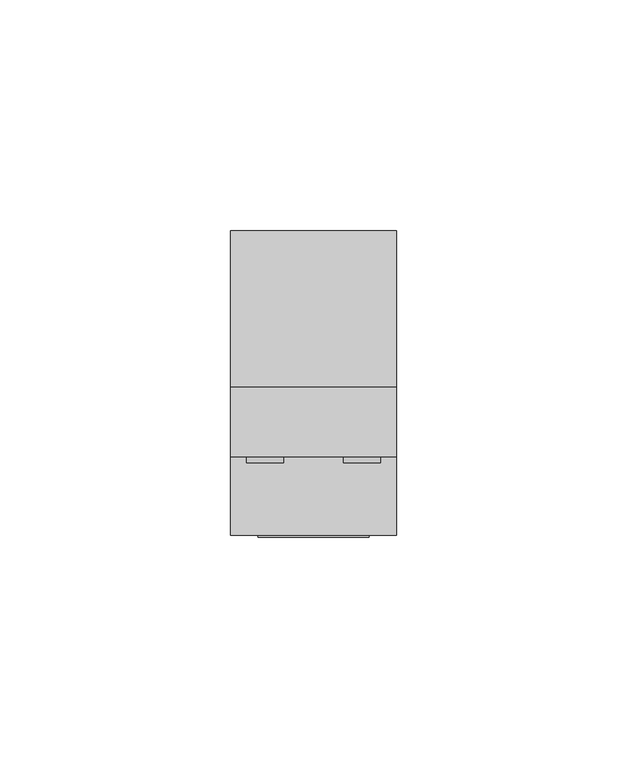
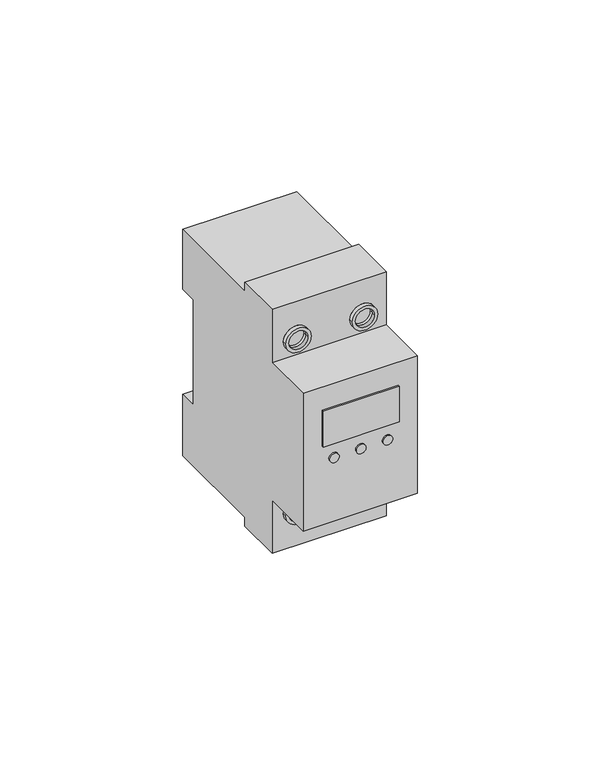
"""IFC4 building model written with IfcOpenShell, lengths in millimetres: proxy geometry, TDM_РЕЛЕ КОНТРОЛЯ НАПРЯЖЕНИЯ СЕРИИ АЗМ LED : 63А."""

import ifcopenshell
import ifcopenshell.guid

model = None  # the IFC model being written
_history = None  # IfcOwnerHistory: only IFC2X3 demands one
_inside = {}  # id of a spatial element -> (the spatial element, [elements in it])
_under = {}  # id of a project, library or spatial element -> (it, [spatial elements below it])
_declared = {}  # id of a project -> (the project, [libraries it declares])
_typed = {}  # id of a type object -> (the type object, [elements of that type])
_made_of = {}  # id of a material, layer set ... -> (it, [elements and type objects made of it])


def new_model(schema):
    """Start an empty IFC model of exactly this schema.

    Asked for "IFC4X3", IfcOpenShell would pick the latest addendum, in which some entities
    have other attributes; the version numbers below select the first issue.
    IFC2X3 requires an IfcOwnerHistory on every rooted entity: one is made here for all.
    """
    global model, _history
    if schema == "IFC4X3":
        model = ifcopenshell.file(schema_version=(4, 3, 0, 0))
    else:
        model = ifcopenshell.file(schema=schema)
    _inside.clear()
    _under.clear()
    _declared.clear()
    _typed.clear()
    _made_of.clear()
    _history = None
    if model.schema == "IFC2X3":
        org = make("IfcOrganization", Name="unknown")
        user = make(
            "IfcPersonAndOrganization",
            ThePerson=make("IfcPerson", FamilyName="unknown"),
            TheOrganization=org,
        )
        app = make(
            "IfcApplication",
            ApplicationDeveloper=org,
            Version="unknown",
            ApplicationFullName="unknown",
            ApplicationIdentifier="unknown",
        )
        _history = make(
            "IfcOwnerHistory",
            OwningUser=user,
            OwningApplication=app,
            ChangeAction="ADDED",
            CreationDate=0,
        )
    return model


def make(cls, **values):
    """One entity of the class cls with the attributes given. An attribute that is None is left unset."""
    return model.create_entity(
        cls, **{name: value for name, value in values.items() if value is not None}
    )


def rooted(cls, **values):
    """An entity with a GlobalId (a new one), such as an element, a storey or a relation."""
    return make(cls, GlobalId=ifcopenshell.guid.new(), OwnerHistory=_history, **values)


def si_unit(unit_type, name, prefix=None):
    """IfcSIUnit, for example si_unit("LENGTHUNIT", "METRE", prefix="MILLI")."""
    return make("IfcSIUnit", UnitType=unit_type, Prefix=prefix, Name=name)


def assignment(units):
    """IfcUnitAssignment: the units of a project."""
    return None if units is None else make("IfcUnitAssignment", Units=units)


def point(xyz):
    """IfcCartesianPoint."""
    return None if xyz is None else make("IfcCartesianPoint", Coordinates=xyz)


def direction(xyz):
    """IfcDirection."""
    return None if xyz is None else make("IfcDirection", DirectionRatios=xyz)


def frame(location, z_axis=None, x_axis=None):
    """IfcAxis2Placement3D, a coordinate frame: its origin and axes. An axis left out is left unset."""
    return make(
        "IfcAxis2Placement3D",
        Location=point(location),
        Axis=direction(z_axis),
        RefDirection=direction(x_axis),
    )


def frame_2d(location, x_axis=None):
    """IfcAxis2Placement2D, a coordinate frame in the plane: its origin and x axis."""
    return make(
        "IfcAxis2Placement2D", Location=point(location), RefDirection=direction(x_axis)
    )


def origin():
    """The frame at (0, 0, 0) with its axes left unset."""
    return frame((0.0, 0.0, 0.0))


def place(relative_to, where):
    """IfcLocalPlacement: puts the frame where relative to a parent placement (None: the world)."""
    return make(
        "IfcLocalPlacement", PlacementRelTo=relative_to, RelativePlacement=where
    )


def context(
    kind, dimensions, precision=None, world=None, true_north=None, identifier=None
):
    """IfcGeometricRepresentationContext, for example the 3D "Model" context."""
    return make(
        "IfcGeometricRepresentationContext",
        ContextIdentifier=identifier,
        ContextType=kind,
        CoordinateSpaceDimension=dimensions,
        Precision=precision,
        WorldCoordinateSystem=world,
        TrueNorth=true_north,
    )


def project(units=None, contexts=None):
    """IfcProject with its units and contexts."""
    return rooted(
        "IfcProject",
        Name="project",
        RepresentationContexts=contexts,
        UnitsInContext=assignment(units),
    )


def spatial(cls, under=None, at=None, **own):
    """A site, building, storey or space (cls), placed at a placement, below another one or the project."""
    s = rooted(cls, ObjectPlacement=at, **own)
    if under is not None:
        _under.setdefault(under.id(), (under, []))[1].append(s)
    return s


def polyline(points):
    """IfcPolyline through the points."""
    return make("IfcPolyline", Points=[point(p) for p in points])


def circle_curve(where, radius):
    """IfcCircle in the frame where."""
    return make("IfcCircle", Position=where, Radius=radius)


def trimmed(basis, trim1, trim2, sense, master):
    """IfcTrimmedCurve: the piece of a basis curve between two trims."""
    return make(
        "IfcTrimmedCurve",
        BasisCurve=basis,
        Trim1=trim1,
        Trim2=trim2,
        SenseAgreement=sense,
        MasterRepresentation=master,
    )


def segment(curve, same_sense, transition):
    """IfcCompositeCurveSegment."""
    return make(
        "IfcCompositeCurveSegment",
        Transition=transition,
        SameSense=same_sense,
        ParentCurve=curve,
    )


def composite_curve(segments, self_intersect=None):
    """IfcCompositeCurve: segments joined end to end."""
    return make("IfcCompositeCurve", Segments=segments, SelfIntersect=self_intersect)


def outline(outer, holes=None, kind="AREA"):
    """IfcArbitraryClosedProfileDef: a profile drawn as a closed curve; with holes, ...WithVoids."""
    if holes is None:
        return make("IfcArbitraryClosedProfileDef", ProfileType=kind, OuterCurve=outer)
    return make(
        "IfcArbitraryProfileDefWithVoids",
        ProfileType=kind,
        OuterCurve=outer,
        InnerCurves=holes,
    )


def extrude(swept, where, along, depth):
    """IfcExtrudedAreaSolid: the profile swept, set in the frame where, extruded along a direction by depth."""
    return make(
        "IfcExtrudedAreaSolid",
        SweptArea=swept,
        Position=where,
        ExtrudedDirection=direction(along),
        Depth=depth,
    )


def shape(context_of_items, identifier, shape_type, items):
    """IfcShapeRepresentation: the items that make up one representation, for example the "Body"."""
    return make(
        "IfcShapeRepresentation",
        ContextOfItems=context_of_items,
        RepresentationIdentifier=identifier,
        RepresentationType=shape_type,
        Items=items,
    )


def source(mapping_origin, context_of_items, identifier, shape_type, items):
    """IfcRepresentationMap: a shape defined once, which mapped items show again and again."""
    return make(
        "IfcRepresentationMap",
        MappingOrigin=mapping_origin,
        MappedRepresentation=shape(context_of_items, identifier, shape_type, items),
    )


def transform(
    local_origin,
    x_axis=None,
    y_axis=None,
    z_axis=None,
    scale=None,
    scale2=None,
    scale3=None,
    uniform=True,
):
    """IfcCartesianTransformationOperator3D, or its non-uniform kind. x_axis, y_axis, z_axis: its Axis1, 2, 3."""
    if uniform:
        return make(
            "IfcCartesianTransformationOperator3D",
            Axis1=direction(x_axis),
            Axis2=direction(y_axis),
            LocalOrigin=point(local_origin),
            Scale=scale,
            Axis3=direction(z_axis),
        )
    return make(
        "IfcCartesianTransformationOperator3DnonUniform",
        Axis1=direction(x_axis),
        Axis2=direction(y_axis),
        LocalOrigin=point(local_origin),
        Scale=scale,
        Axis3=direction(z_axis),
        Scale2=scale2,
        Scale3=scale3,
    )


def mapped(mapping_source, mapping_target):
    """IfcMappedItem: shows the shape of a source again, moved by a transform."""
    return make(
        "IfcMappedItem", MappingSource=mapping_source, MappingTarget=mapping_target
    )


def made_of(thing, what):
    """Note that an element or type object is made of a material, layer set ...; save() writes the relation."""
    if what is not None:
        _made_of.setdefault(what.id(), (what, []))[1].append(thing)
    return thing


def element(
    cls,
    number,
    at=None,
    inside=None,
    cuts=None,
    type_object=None,
    material=None,
    context=None,
    identifier="Body",
    shape_type=None,
    held_by="IfcProductDefinitionShape",
    body=None,
    shapes=None,
    **own,
):
    """One element of the class cls, such as IfcWall. Its Tag is "e" and its number.

    at: its placement. inside: the storey or other place that contains it. cuts: it is an
    opening in that element (IfcRelVoidsElement). A single representation is given by context,
    identifier, shape_type and body (its items); several are given by shapes. held_by: the class
    of the entity that holds the representations. save() writes the other relations.
    """
    e = rooted(cls, Tag="e%d" % number, ObjectPlacement=at, **own)
    if body is not None:
        shapes = [shape(context, identifier, shape_type, body)]
    if shapes is not None:
        e.Representation = make(held_by, Representations=shapes)
    if inside is not None:
        _inside.setdefault(inside.id(), (inside, []))[1].append(e)
    if cuts is not None:
        rooted(
            "IfcRelVoidsElement", RelatingBuildingElement=cuts, RelatedOpeningElement=e
        )
    if type_object is not None:
        _typed.setdefault(type_object.id(), (type_object, []))[1].append(e)
    return made_of(e, material)


def aggregate(whole, parts):
    """IfcRelAggregates: a whole, such as a stair, and the parts it consists of."""
    return rooted("IfcRelAggregates", RelatingObject=whole, RelatedObjects=parts)


def save(model, path):
    """Write the relations noted so far, then the file.

    IfcRelAggregates (storeys below a building ...), IfcRelContainedInSpatialStructure (elements
    in a storey), IfcRelDefinesByType, IfcRelAssociatesMaterial and IfcRelDeclares: one each for
    every whole, place, type object, material and project.
    """
    for whole, parts in _under.values():
        aggregate(whole, parts)
    for where, things in _inside.values():
        rooted(
            "IfcRelContainedInSpatialStructure",
            RelatedElements=things,
            RelatingStructure=where,
        )
    for kind, things in _typed.values():
        rooted("IfcRelDefinesByType", RelatedObjects=things, RelatingType=kind)
    for what, things in _made_of.values():
        rooted("IfcRelAssociatesMaterial", RelatedObjects=things, RelatingMaterial=what)
    for by, libraries in _declared.values():
        rooted("IfcRelDeclares", RelatingContext=by, RelatedDefinitions=libraries)
    model.write(path)


def plane_surface(at):
    """IfcPlane: the flat surface through the origin of the frame at, square to its z axis."""
    return make("IfcPlane", Position=at)


def cylinder_surface(at, radius):
    """IfcCylindricalSurface: all points at the distance radius from the z axis of the frame at."""
    return make("IfcCylindricalSurface", Position=at, Radius=radius)


def revolved_surface(curve, axis_point, axis_direction):
    """IfcSurfaceOfRevolution: the curve turned about the line through axis_point along axis_direction."""
    return make(
        "IfcSurfaceOfRevolution",
        SweptCurve=make("IfcArbitraryOpenProfileDef", ProfileType="CURVE", Curve=curve),
        AxisPosition=make("IfcAxis1Placement", Location=point(axis_point), Axis=direction(axis_direction)),
    )


def advanced_brep(points, edges, surfaces, faces):
    """IfcAdvancedBrep: a solid bounded by faces that lie on surfaces and meet in shared edges.

    An edge is (start, end): straight between two places in points (the first is 0);
    or (start, end, curve); or (start, end, curve, False) where it runs against its curve.
    A face is (place in surfaces, loops), or (place, loops, False) where it looks against
    its surface's normal. A loop lists edges by number (the first is 1), with a minus sign
    where the edge is run from its end to its start. The first loop is the outer one.
    """
    corners = [point(p) for p in points]
    vertices = [make("IfcVertexPoint", VertexGeometry=c) for c in corners]
    made = []
    for start, end, *more in edges:
        made.append(
            make(
                "IfcEdgeCurve",
                EdgeStart=vertices[start],
                EdgeEnd=vertices[end],
                EdgeGeometry=more[0] if more else make("IfcPolyline", Points=[corners[start], corners[end]]),
                SameSense=more[1] if len(more) > 1 else True,
            )
        )
    hull = []
    for where, loops, *sense in faces:
        bounds = []
        for j, loop in enumerate(loops):
            ring = [make("IfcOrientedEdge", EdgeElement=made[abs(k) - 1], Orientation=k > 0) for k in loop]
            bounds.append(
                make(
                    "IfcFaceOuterBound" if j == 0 else "IfcFaceBound",
                    Bound=make("IfcEdgeLoop", EdgeList=ring),
                    Orientation=True,
                )
            )
        hull.append(make("IfcAdvancedFace", Bounds=bounds, FaceSurface=surfaces[where], SameSense=sense[0] if sense else True))
    return make("IfcAdvancedBrep", Outer=make("IfcClosedShell", CfsFaces=hull))


def electrical_equipment_b765c095(model_context):
    return source(origin(), model_context, "Body", "SolidModel", [
        extrude(outline(composite_curve([segment(trimmed(circle_curve(frame_2d((-1.58976, 0.0)), 1.5), [point((-1.58976, -1.5))], [point((-1.58976, 1.5))], False, "CARTESIAN"), True, "CONTINUOUS"), segment(trimmed(circle_curve(frame_2d((-1.58976, 0.0)), 1.5), [point((-1.58976, 1.5))], [point((-1.58976, -1.5))], False, "CARTESIAN"), True, "CONTINUOUS")], self_intersect=False)), frame((0.0, -28.9880596, 0.0), z_axis=(0.0, 1.0, 0.0), x_axis=(0.0, 0.0, 1.0)), (0.0, 0.0, 1.0), 0.4880596),
        extrude(outline(composite_curve([segment(trimmed(circle_curve(frame_2d((-1.58976, 8.4375)), 1.5), [point((-1.58976, 6.9375))], [point((-1.58976, 9.9375))], False, "CARTESIAN"), True, "CONTINUOUS"), segment(trimmed(circle_curve(frame_2d((-1.58976, 8.4375)), 1.5), [point((-1.58976, 9.9375))], [point((-1.58976, 6.9375))], False, "CARTESIAN"), True, "CONTINUOUS")], self_intersect=False)), frame((0.0, -28.9880596, 0.0), z_axis=(0.0, 1.0, 0.0), x_axis=(0.0, 0.0, 1.0)), (0.0, 0.0, 1.0), 0.4880596),
        extrude(outline(composite_curve([segment(trimmed(circle_curve(frame_2d((-1.58976, -8.4375)), 1.5), [point((-1.58976, -6.9375))], [point((-1.58976, -9.9375))], False, "CARTESIAN"), True, "CONTINUOUS"), segment(trimmed(circle_curve(frame_2d((-1.58976, -8.4375)), 1.5), [point((-1.58976, -9.9375))], [point((-1.58976, -6.9375))], False, "CARTESIAN"), True, "CONTINUOUS")], self_intersect=False)), frame((0.0, -28.9880596, 0.0), z_axis=(0.0, 1.0, 0.0), x_axis=(0.0, 0.0, 1.0)), (0.0, 0.0, 1.0), 0.4880596),
        extrude(outline(polyline([(12.0, -28.9880596), (-12.0, -28.9880596), (-12.0, -28.5), (12.0, -28.5), (12.0, -28.9880596)])), frame((0.0, 0.0, 3.2742236), z_axis=(0.0, 0.0, 1.0), x_axis=(1.0, 0.0, 0.0)), (0.0, 0.0, 1.0), 12.0),
        extrude(outline(polyline([(17.0, 16.6821204), (17.0, -10.1906439), (-17.0, -10.1906439), (-17.0, 16.6821204), (17.0, 16.6821204)])), frame((0.0, 0.0, -35.0), z_axis=(0.0, 0.0, 1.0), x_axis=(1.0, 0.0, 0.0)), (0.0, 0.0, 1.0), 69.8255916),
        advanced_brep(
        [(18.0, 31.7632568, 17.7057143), (18.0, 37.5, 17.7057143), (18.0, 37.5, 37.75), (18.0, 3.5, 37.75), (18.0, 3.5, 40.75), (18.0, -11.5, 40.75), (18.0, -11.5, 23.0), (18.0, -28.5, 23.0), (18.0, -28.5, -23.0), (18.0, -11.5, -23.0), (18.0, -11.5, -40.75), (18.0, 3.5, -40.75), (18.0, 3.5, -37.75), (18.0, 37.5, -37.75), (18.0, 37.5, -17.2942857), (18.0, 31.7632568, -17.2942857), (-18.0, 31.7632568, 17.7057143), (-18.0, 31.7632568, -17.2942857), (-18.0, 37.5, -17.2942857), (-18.0, 37.5, -37.75), (-18.0, 3.5, -37.75), (-18.0, 3.5, -40.75), (-18.0, -11.5, -40.75), (-18.0, -11.5, -23.0), (-18.0, -28.5, -23.0), (-18.0, -28.5, 23.0), (-18.0, -11.5, 23.0), (-18.0, -11.5, 40.75), (-18.0, 3.5, 40.75), (-18.0, 3.5, 37.75), (-18.0, 37.5, 37.75), (-18.0, 37.5, 17.7057143), (7.5, -8.8717742, 28.6903679), (13.5, -8.8717742, 28.6903679), (-7.5, -8.8717742, 28.6903679), (-13.5, -8.8717742, 28.6903679), (7.5, -8.8717742, -28.6903679), (13.5, -8.8717742, -28.6903679), (-7.5, -8.8717742, -28.6903679), (-13.5, -8.8717742, -28.6903679), (7.5, -11.5, 28.6903679), (13.5, -11.5, 28.6903679), (14.5, -11.5, 28.6903679), (6.5, -11.5, 28.6903679), (-6.5, -11.5, 28.6903679), (-14.5, -11.5, 28.6903679), (14.5, -11.5, -28.6903679), (6.5, -11.5, -28.6903679), (-6.5, -11.5, -28.6903679), (-14.5, -11.5, -28.6903679), (-7.5, -11.5, 28.6903679), (-13.5, -11.5, 28.6903679), (7.5, -11.5, -28.6903679), (13.5, -11.5, -28.6903679), (-7.5, -11.5, -28.6903679), (-13.5, -11.5, -28.6903679), (6.5, -12.8283835, -28.6903679), (14.5, -12.8283835, -28.6903679), (7.5, -12.8283835, -28.6903679), (13.5, -12.8283835, -28.6903679), (-14.5, -12.8283835, -28.6903679), (-6.5, -12.8283835, -28.6903679), (-7.5, -12.8283835, -28.6903679), (-13.5, -12.8283835, -28.6903679), (6.5, -12.8283835, 28.6903679), (14.5, -12.8283835, 28.6903679), (7.5, -12.8283835, 28.6903679), (13.5, -12.8283835, 28.6903679), (-14.5, -12.8283835, 28.6903679), (-6.5, -12.8283835, 28.6903679), (-7.5, -12.8283835, 28.6903679), (-13.5, -12.8283835, 28.6903679)],
        [
            (0, 1),
            (1, 2),
            (2, 3),
            (3, 4),
            (4, 5),
            (5, 6),
            (6, 7),
            (7, 8),
            (8, 9),
            (9, 10),
            (10, 11),
            (11, 12),
            (12, 13),
            (13, 14),
            (14, 15),
            (15, 0),
            (16, 17),
            (17, 18),
            (18, 19),
            (19, 20),
            (20, 21),
            (21, 22),
            (22, 23),
            (23, 24),
            (24, 25),
            (25, 26),
            (26, 27),
            (27, 28),
            (28, 29),
            (29, 30),
            (30, 31),
            (31, 16),
            (0, 16),
            (31, 1),
            (30, 2),
            (13, 19),
            (18, 14),
            (17, 15),
            (32, 33, circle_curve(frame((10.5, -8.8717742, 28.6903679), z_axis=(0.0, -1.0, 0.0), x_axis=(1.0, 0.0, 0.0)), 3.0)),
            (33, 32, circle_curve(frame((10.5, -8.8717742, 28.6903679), z_axis=(0.0, -1.0, 0.0), x_axis=(1.0, 0.0, 0.0)), 3.0)),
            (34, 35, circle_curve(frame((-10.5, -8.8717742, 28.6903679), z_axis=(0.0, -1.0, 0.0), x_axis=(-1.0, 0.0, 0.0)), 3.0)),
            (35, 34, circle_curve(frame((-10.5, -8.8717742, 28.6903679), z_axis=(0.0, -1.0, 0.0), x_axis=(-1.0, 0.0, 0.0)), 3.0)),
            (36, 37, circle_curve(frame((10.5, -8.8717742, -28.6903679), z_axis=(0.0, -1.0, 0.0), x_axis=(1.0, 0.0, 0.0)), 3.0)),
            (37, 36, circle_curve(frame((10.5, -8.8717742, -28.6903679), z_axis=(0.0, -1.0, 0.0), x_axis=(1.0, 0.0, 0.0)), 3.0)),
            (38, 39, circle_curve(frame((-10.5, -8.8717742, -28.6903679), z_axis=(0.0, -1.0, 0.0), x_axis=(-1.0, 0.0, 0.0)), 3.0)),
            (39, 38, circle_curve(frame((-10.5, -8.8717742, -28.6903679), z_axis=(0.0, -1.0, 0.0), x_axis=(-1.0, 0.0, 0.0)), 3.0)),
            (6, 26),
            (25, 7),
            (24, 8),
            (32, 40),
            (40, 41, circle_curve(frame((10.5, -11.5, 28.6903679), z_axis=(0.0, -1.0, 0.0), x_axis=(1.0, 0.0, 0.0)), 3.0)),
            (41, 33),
            (41, 40, circle_curve(frame((10.5, -11.5, 28.6903679), z_axis=(0.0, -1.0, 0.0), x_axis=(1.0, 0.0, 0.0)), 3.0)),
            (4, 28),
            (27, 5),
            (42, 43, circle_curve(frame((10.5, -11.5, 28.6903679), z_axis=(0.0, 1.0, 0.0), x_axis=(1.0, 0.0, 0.0)), 4.0)),
            (43, 42, circle_curve(frame((10.5, -11.5, 28.6903679), z_axis=(0.0, 1.0, 0.0), x_axis=(1.0, 0.0, 0.0)), 4.0)),
            (44, 45, circle_curve(frame((-10.5, -11.5, 28.6903679), z_axis=(0.0, 1.0, 0.0), x_axis=(1.0, 0.0, 0.0)), 4.0)),
            (45, 44, circle_curve(frame((-10.5, -11.5, 28.6903679), z_axis=(0.0, 1.0, 0.0), x_axis=(1.0, 0.0, 0.0)), 4.0)),
            (23, 9),
            (22, 10),
            (46, 47, circle_curve(frame((10.5, -11.5, -28.6903679), z_axis=(0.0, 1.0, 0.0), x_axis=(1.0, 0.0, 0.0)), 4.0)),
            (47, 46, circle_curve(frame((10.5, -11.5, -28.6903679), z_axis=(0.0, 1.0, 0.0), x_axis=(1.0, 0.0, 0.0)), 4.0)),
            (48, 49, circle_curve(frame((-10.5, -11.5, -28.6903679), z_axis=(0.0, 1.0, 0.0), x_axis=(1.0, 0.0, 0.0)), 4.0)),
            (49, 48, circle_curve(frame((-10.5, -11.5, -28.6903679), z_axis=(0.0, 1.0, 0.0), x_axis=(1.0, 0.0, 0.0)), 4.0)),
            (21, 11),
            (34, 50),
            (50, 51, circle_curve(frame((-10.5, -11.5, 28.6903679), z_axis=(0.0, -1.0, 0.0), x_axis=(-1.0, 0.0, 0.0)), 3.0)),
            (51, 35),
            (51, 50, circle_curve(frame((-10.5, -11.5, 28.6903679), z_axis=(0.0, -1.0, 0.0), x_axis=(-1.0, 0.0, 0.0)), 3.0)),
            (36, 52),
            (52, 53, circle_curve(frame((10.5, -11.5, -28.6903679), z_axis=(0.0, -1.0, 0.0), x_axis=(1.0, 0.0, 0.0)), 3.0)),
            (53, 37),
            (53, 52, circle_curve(frame((10.5, -11.5, -28.6903679), z_axis=(0.0, -1.0, 0.0), x_axis=(1.0, 0.0, 0.0)), 3.0)),
            (38, 54),
            (54, 55, circle_curve(frame((-10.5, -11.5, -28.6903679), z_axis=(0.0, -1.0, 0.0), x_axis=(-1.0, 0.0, 0.0)), 3.0)),
            (55, 39),
            (55, 54, circle_curve(frame((-10.5, -11.5, -28.6903679), z_axis=(0.0, -1.0, 0.0), x_axis=(-1.0, 0.0, 0.0)), 3.0)),
            (29, 3),
            (20, 12),
            (56, 57, circle_curve(frame((10.5, -12.8283835, -28.6903679), z_axis=(0.0, -1.0, 0.0), x_axis=(1.0, 0.0, 0.0)), 4.0)),
            (57, 56, circle_curve(frame((10.5, -12.8283835, -28.6903679), z_axis=(0.0, -1.0, 0.0), x_axis=(1.0, 0.0, 0.0)), 4.0)),
            (58, 59, circle_curve(frame((10.5, -12.8283835, -28.6903679), z_axis=(0.0, 1.0, 0.0), x_axis=(1.0, 0.0, 0.0)), 3.0)),
            (59, 58, circle_curve(frame((10.5, -12.8283835, -28.6903679), z_axis=(0.0, 1.0, 0.0), x_axis=(1.0, 0.0, 0.0)), 3.0)),
            (60, 61, circle_curve(frame((-10.5, -12.8283835, -28.6903679), z_axis=(0.0, -1.0, 0.0), x_axis=(1.0, 0.0, 0.0)), 4.0)),
            (61, 60, circle_curve(frame((-10.5, -12.8283835, -28.6903679), z_axis=(0.0, -1.0, 0.0), x_axis=(1.0, 0.0, 0.0)), 4.0)),
            (62, 63, circle_curve(frame((-10.5, -12.8283835, -28.6903679), z_axis=(0.0, 1.0, 0.0), x_axis=(-1.0, 0.0, 0.0)), 3.0)),
            (63, 62, circle_curve(frame((-10.5, -12.8283835, -28.6903679), z_axis=(0.0, 1.0, 0.0), x_axis=(-1.0, 0.0, 0.0)), 3.0)),
            (64, 65, circle_curve(frame((10.5, -12.8283835, 28.6903679), z_axis=(0.0, -1.0, 0.0), x_axis=(1.0, 0.0, 0.0)), 4.0)),
            (65, 64, circle_curve(frame((10.5, -12.8283835, 28.6903679), z_axis=(0.0, -1.0, 0.0), x_axis=(1.0, 0.0, 0.0)), 4.0)),
            (66, 67, circle_curve(frame((10.5, -12.8283835, 28.6903679), z_axis=(0.0, 1.0, 0.0), x_axis=(1.0, 0.0, 0.0)), 3.0)),
            (67, 66, circle_curve(frame((10.5, -12.8283835, 28.6903679), z_axis=(0.0, 1.0, 0.0), x_axis=(1.0, 0.0, 0.0)), 3.0)),
            (68, 69, circle_curve(frame((-10.5, -12.8283835, 28.6903679), z_axis=(0.0, -1.0, 0.0), x_axis=(1.0, 0.0, 0.0)), 4.0)),
            (69, 68, circle_curve(frame((-10.5, -12.8283835, 28.6903679), z_axis=(0.0, -1.0, 0.0), x_axis=(1.0, 0.0, 0.0)), 4.0)),
            (70, 71, circle_curve(frame((-10.5, -12.8283835, 28.6903679), z_axis=(0.0, 1.0, 0.0), x_axis=(-1.0, 0.0, 0.0)), 3.0)),
            (71, 70, circle_curve(frame((-10.5, -12.8283835, 28.6903679), z_axis=(0.0, 1.0, 0.0), x_axis=(-1.0, 0.0, 0.0)), 3.0)),
            (70, 50),
            (51, 71),
            (66, 40),
            (41, 67),
            (58, 52),
            (53, 59),
            (62, 54),
            (55, 63),
            (56, 47),
            (46, 57),
            (60, 49),
            (48, 61),
            (64, 43),
            (42, 65),
            (68, 45),
            (44, 69),
        ],
        [
            plane_surface(frame((18.0, 31.7632568, 17.7057143), z_axis=(1.0, 0.0, 0.0), x_axis=(0.0, 1.0, 0.0))),
            plane_surface(frame((-18.0, 31.7632568, 17.7057143), z_axis=(-1.0, 0.0, 0.0), x_axis=(0.0, -1.0, 0.0))),
            plane_surface(frame((18.0, 31.7632568, 17.7057143), z_axis=(0.0, 0.0, -1.0), x_axis=(-1.0, 0.0, 0.0))),
            plane_surface(frame((18.0, 37.5, 17.7057143), z_axis=(0.0, 1.0, 0.0), x_axis=(-1.0, 0.0, 0.0))),
            plane_surface(frame((18.0, 37.5, -37.75), z_axis=(0.0, 1.0, 0.0), x_axis=(-1.0, 0.0, 0.0))),
            plane_surface(frame((18.0, 37.5, -17.2942857), z_axis=(0.0, 0.0, 1.0), x_axis=(-1.0, 0.0, 0.0))),
            plane_surface(frame((18.0, 31.7632568, -17.2942857), z_axis=(0.0, 1.0, 0.0), x_axis=(-1.0, 0.0, 0.0))),
            plane_surface(frame((13.5, -8.8717742, 28.6903679), z_axis=(0.0, -1.0, 0.0), x_axis=(0.0, 0.0, -1.0))),
            plane_surface(frame((18.0, -11.5, 23.0), z_axis=(0.0, 0.0, 1.0), x_axis=(-1.0, 0.0, 0.0))),
            plane_surface(frame((18.0, -28.5, 23.0), z_axis=(0.0, -1.0, 0.0), x_axis=(-1.0, 0.0, 0.0))),
            revolved_surface(polyline([(13.5, -11.5, 28.6903679), (13.5, -8.8717742, 28.6903679)]), (10.5, -8.8717742, 28.6903679), (0.0, -1.0, 0.0)),
            plane_surface(frame((18.0, 3.5, 40.75), z_axis=(0.0, 0.0, 1.0), x_axis=(-1.0, 0.0, 0.0))),
            plane_surface(frame((18.0, -11.5, 40.75), z_axis=(0.0, -1.0, 0.0), x_axis=(-1.0, 0.0, 0.0))),
            plane_surface(frame((18.0, -28.5, -23.0), z_axis=(0.0, 0.0, -1.0), x_axis=(-1.0, 0.0, 0.0))),
            plane_surface(frame((18.0, -11.5, -23.0), z_axis=(0.0, -1.0, 0.0), x_axis=(-1.0, 0.0, 0.0))),
            plane_surface(frame((18.0, -11.5, -40.75), z_axis=(0.0, 0.0, -1.0), x_axis=(-1.0, 0.0, 0.0))),
            revolved_surface(polyline([(-13.5, -11.5, 28.6903679), (-13.5, -8.8717742, 28.6903679)]), (-10.5, 0.0, 28.6903679), (0.0, -1.0, 0.0)),
            revolved_surface(polyline([(13.5, -11.5, -28.6903679), (13.5, -8.8717742, -28.6903679)]), (10.5, 0.0, -28.6903679), (0.0, -1.0, 0.0)),
            revolved_surface(polyline([(-13.5, -11.5, -28.6903679), (-13.5, -8.8717742, -28.6903679)]), (-10.5, 0.0, -28.6903679), (0.0, -1.0, 0.0)),
            plane_surface(frame((18.0, 37.5, 37.75), z_axis=(0.0, 0.0, 1.0), x_axis=(-1.0, 0.0, 0.0))),
            plane_surface(frame((18.0, 3.5, 37.75), z_axis=(0.0, 1.0, 0.0), x_axis=(-1.0, 0.0, 0.0))),
            plane_surface(frame((18.0, 3.5, -40.75), z_axis=(0.0, 1.0, 0.0), x_axis=(-1.0, 0.0, 0.0))),
            plane_surface(frame((18.0, 3.5, -37.75), z_axis=(0.0, 0.0, -1.0), x_axis=(-1.0, 0.0, 0.0))),
            plane_surface(frame((-13.5, -12.8283835, 28.6903679), z_axis=(0.0, -1.0, 0.0), x_axis=(0.0, 0.0, 1.0))),
            revolved_surface(polyline([(-13.5, -11.5, 28.6903679), (-13.5, -12.8283835, 28.6903679)]), (-10.5, -11.5, 28.6903679), (0.0, 1.0, 0.0)),
            revolved_surface(polyline([(13.5, -11.5, 28.6903679), (13.5, -12.8283835, 28.6903679)]), (10.5, 0.0, 28.6903679), (0.0, 1.0, 0.0)),
            revolved_surface(polyline([(13.5, -11.5, -28.6903679), (13.5, -12.8283835, -28.6903679)]), (10.5, 0.0, -28.6903679), (0.0, 1.0, 0.0)),
            revolved_surface(polyline([(-13.5, -11.5, -28.6903679), (-13.5, -12.8283835, -28.6903679)]), (-10.5, 0.0, -28.6903679), (0.0, 1.0, 0.0)),
            cylinder_surface(frame((10.5, 0.0, -28.6903679), z_axis=(0.0, -1.0, 0.0), x_axis=(1.0, 0.0, 0.0)), 4.0),
            cylinder_surface(frame((-10.5, 0.0, -28.6903679), z_axis=(0.0, -1.0, 0.0), x_axis=(1.0, 0.0, 0.0)), 4.0),
            cylinder_surface(frame((10.5, 0.0, 28.6903679), z_axis=(0.0, -1.0, 0.0), x_axis=(1.0, 0.0, 0.0)), 4.0),
            cylinder_surface(frame((-10.5, 0.0, 28.6903679), z_axis=(0.0, -1.0, 0.0), x_axis=(1.0, 0.0, 0.0)), 4.0),
        ],
        [
            (0, [[1, 2, 3, 4, 5, 6, 7, 8, 9, 10, 11, 12, 13, 14, 15, 16]]),
            (1, [[17, 18, 19, 20, 21, 22, 23, 24, 25, 26, 27, 28, 29, 30, 31, 32]]),
            (2, [[-1, 33, -32, 34]]),
            (3, [[-2, -34, -31, 35]]),
            (4, [[-14, 36, -19, 37]]),
            (5, [[-15, -37, -18, 38]]),
            (6, [[-16, -38, -17, -33]]),
            (7, [[39, 40]]),
            (7, [[41, 42]]),
            (7, [[43, 44]]),
            (7, [[45, 46]]),
            (8, [[-7, 47, -26, 48]]),
            (9, [[-8, -48, -25, 49]]),
            (10, [[-39, 50, 51, 52]]),
            (10, [[-40, -52, 53, -50]]),
            (11, [[-5, 54, -28, 55]]),
            (12, [[-6, -55, -27, -47], [56, 57], [58, 59]]),
            (13, [[-9, -49, -24, 60]]),
            (14, [[-10, -60, -23, 61], [62, 63], [64, 65]]),
            (15, [[-11, -61, -22, 66]]),
            (16, [[-41, 67, 68, 69]]),
            (16, [[-42, -69, 70, -67]]),
            (17, [[-43, 71, 72, 73]]),
            (17, [[-44, -73, 74, -71]]),
            (18, [[-45, 75, 76, 77]]),
            (18, [[-46, -77, 78, -75]]),
            (19, [[-3, -35, -30, 79]]),
            (20, [[-4, -79, -29, -54]]),
            (21, [[-12, -66, -21, 80]]),
            (22, [[-13, -80, -20, -36]]),
            (23, [[81, 82], [83, 84]]),
            (23, [[85, 86], [87, 88]]),
            (23, [[89, 90], [91, 92]]),
            (23, [[93, 94], [95, 96]]),
            (24, [[-95, 97, -70, 98]]),
            (24, [[-96, -98, -68, -97]]),
            (25, [[-91, 99, -53, 100]]),
            (25, [[-92, -100, -51, -99]]),
            (26, [[-83, 101, -74, 102]]),
            (26, [[-84, -102, -72, -101]]),
            (27, [[-87, 103, -78, 104]]),
            (27, [[-88, -104, -76, -103]]),
            (28, [[-81, 105, -62, 106]]),
            (28, [[-82, -106, -63, -105]]),
            (29, [[-85, 107, -64, 108]]),
            (29, [[-86, -108, -65, -107]]),
            (30, [[-89, 109, -56, 110]]),
            (30, [[-90, -110, -57, -109]]),
            (31, [[-93, 111, -58, 112]]),
            (31, [[-94, -112, -59, -111]]),
        ],
    ),
    ])


if __name__ == "__main__":
    model = new_model("IFC4")
    model_context = context("Model", 3, world=origin())
    ifc_project = project(units=[si_unit("LENGTHUNIT", "METRE", prefix="MILLI")], contexts=[model_context])
    site = spatial("IfcSite", under=ifc_project)
    building = spatial("IfcBuilding", under=site)
    placement = place(None, origin())
    electrical_equipment_shape = electrical_equipment_b765c095(model_context)
    element("IfcBuildingElementProxy", 1, Name="TDM_РЕЛЕ КОНТРОЛЯ НАПРЯЖЕНИЯ СЕРИИ АЗМ LED : 63А", ObjectType="TDM_РЕЛЕ КОНТРОЛЯ НАПРЯЖЕНИЯ СЕРИИ АЗМ LED : 63А", at=placement, inside=building, context=model_context, shape_type="MappedRepresentation", body=[
        mapped(electrical_equipment_shape, transform((0.0, 0.0, 0.0), x_axis=(1.0, 0.0, 0.0), y_axis=(0.0, 1.0, 0.0), z_axis=(0.0, 0.0, 1.0))),
    ])
    save(model, "model.ifc")
